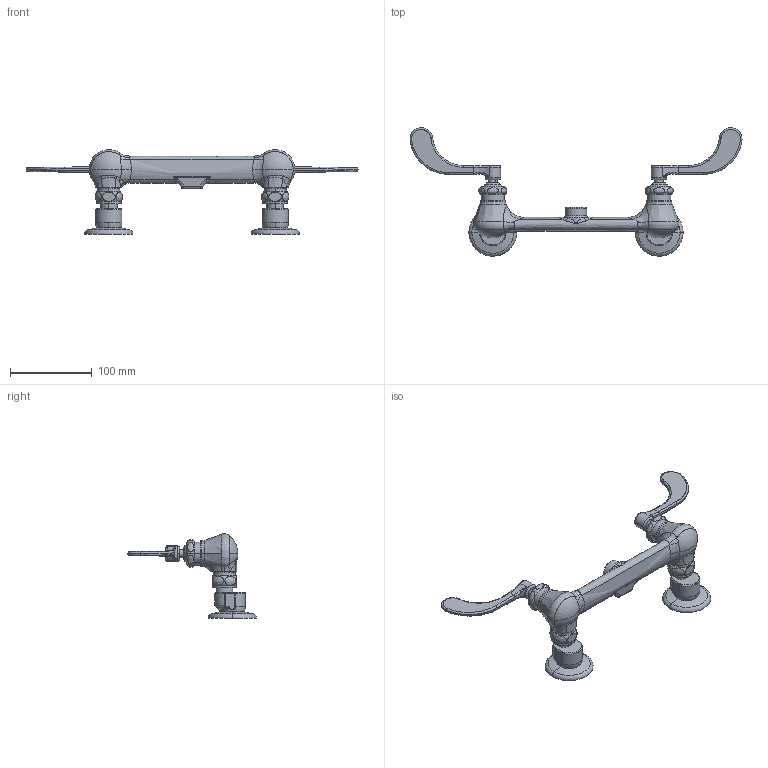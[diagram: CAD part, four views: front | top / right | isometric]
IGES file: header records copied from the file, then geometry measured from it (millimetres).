
Start section:  PTC IGES file: 631-LESSSPTABCP_REV100511.igs
Global section: file name: 631-LESSSPTABCP_REV100511.igs; native system: Pro/ENGINEER by Parametric Technology Corporation; preprocessor: 2010230; author: sdmitruk; organization: Unknown; date: 20111005.113445; units: inch
Bounding box: 407.16 x 157.36 x 103.68 mm (x, y, z)
Surface area: 81245.7 mm2 (no closed solid volume)
Topology: 0 solids, 0 shells, 386 faces, 2624 edges, 3451 vertices
Faces by surface type: bspline 235, revolution 151
